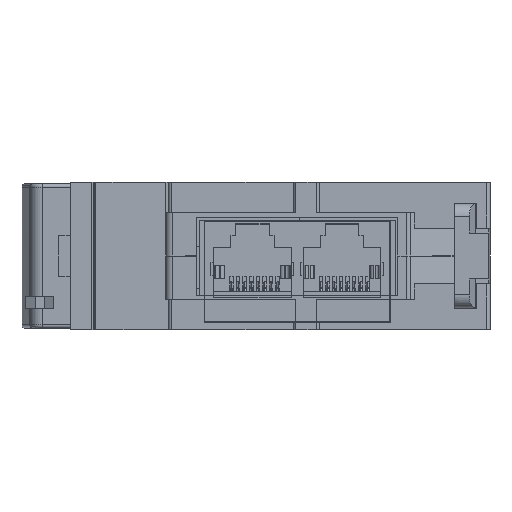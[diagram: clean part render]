
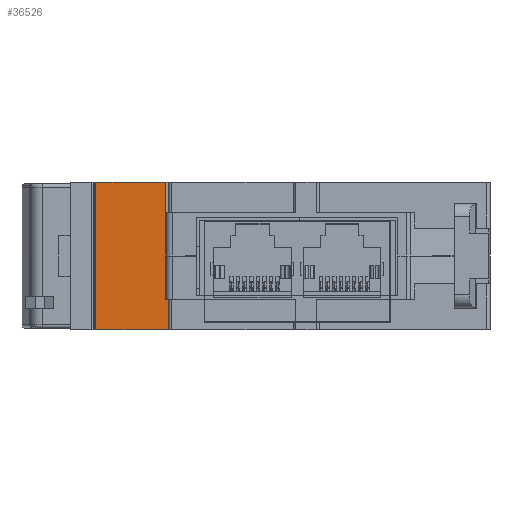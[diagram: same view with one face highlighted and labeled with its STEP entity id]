
A CAD part, left-side view. The second image highlights one B-rep face of the part: STEP entity #36526.
In plain terms, the highlighted planar face has unit normal (-1, 0, 0).
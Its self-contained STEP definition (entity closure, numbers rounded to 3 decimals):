
#1220 = VECTOR ( 'NONE', #46695, 1000. ) ;
#2016 = DIRECTION ( 'NONE',  ( 0., 0., -1. ) ) ;
#3674 = VECTOR ( 'NONE', #69982, 1000. ) ;
#4986 = CARTESIAN_POINT ( 'NONE',  ( -22.5, 0., 0. ) ) ;
#8594 = CARTESIAN_POINT ( 'NONE',  ( -22.5, 0., 11.25 ) ) ;
#9073 = DIRECTION ( 'NONE',  ( 0., 0., -1. ) ) ;
#9164 = LINE ( 'NONE', #35554, #52052 ) ;
#11385 = EDGE_CURVE ( 'NONE', #64143, #30922, #59351, .T. ) ;
#14905 = ORIENTED_EDGE ( 'NONE', *, *, #35883, .T. ) ;
#15177 = VECTOR ( 'NONE', #53445, 1000. ) ;
#15829 = ORIENTED_EDGE ( 'NONE', *, *, #34889, .F. ) ;
#17662 = EDGE_CURVE ( 'NONE', #30922, #60411, #9164, .T. ) ;
#18138 = ORIENTED_EDGE ( 'NONE', *, *, #57771, .F. ) ;
#18691 = FACE_OUTER_BOUND ( 'NONE', #21345, .T. ) ;
#19982 = CARTESIAN_POINT ( 'NONE',  ( -22.5, 10.705, 11.25 ) ) ;
#21345 = EDGE_LOOP ( 'NONE', ( #18138, #15829, #14905, #50598, #23908, #23565, #59998 ) ) ;
#22280 = LINE ( 'NONE', #27852, #41505 ) ;
#22527 = CARTESIAN_POINT ( 'NONE',  ( -22.5, 0., -6.65 ) ) ;
#23430 = CARTESIAN_POINT ( 'NONE',  ( -22.5, 0., -11.25 ) ) ;
#23565 = ORIENTED_EDGE ( 'NONE', *, *, #17662, .F. ) ;
#23908 = ORIENTED_EDGE ( 'NONE', *, *, #30233, .F. ) ;
#27852 = CARTESIAN_POINT ( 'NONE',  ( -22.5, -0.4, -6.65 ) ) ;
#29077 = LINE ( 'NONE', #8594, #3674 ) ;
#30233 = EDGE_CURVE ( 'NONE', #60411, #36722, #62755, .T. ) ;
#30922 = VERTEX_POINT ( 'NONE', #4986 ) ;
#31933 = DIRECTION ( 'NONE',  ( 0., 1., 0. ) ) ;
#34048 = EDGE_CURVE ( 'NONE', #36722, #52433, #22280, .T. ) ;
#34889 = EDGE_CURVE ( 'NONE', #60271, #69429, #54529, .T. ) ;
#35431 = DIRECTION ( 'NONE',  ( 0., -1., 0. ) ) ;
#35554 = CARTESIAN_POINT ( 'NONE',  ( -22.5, 0., 11.25 ) ) ;
#35883 = EDGE_CURVE ( 'NONE', #60271, #52433, #37196, .T. ) ;
#36526 = ADVANCED_FACE ( 'NONE', ( #18691 ), #70876, .F. ) ;
#36722 = VERTEX_POINT ( 'NONE', #50782 ) ;
#37196 = LINE ( 'NONE', #23430, #1220 ) ;
#40521 = CARTESIAN_POINT ( 'NONE',  ( -22.5, 0., 11.25 ) ) ;
#41505 = VECTOR ( 'NONE', #56013, 1000. ) ;
#43447 = CARTESIAN_POINT ( 'NONE',  ( -22.5, 0., 11.25 ) ) ;
#45139 = CARTESIAN_POINT ( 'NONE',  ( -22.5, -0.4, -11.25 ) ) ;
#46251 = VECTOR ( 'NONE', #9073, 1000. ) ;
#46695 = DIRECTION ( 'NONE',  ( 0., -1., 0. ) ) ;
#47578 = CARTESIAN_POINT ( 'NONE',  ( -22.5, 10.705, 11.25 ) ) ;
#49573 = DIRECTION ( 'NONE',  ( 1., 0., 0. ) ) ;
#50598 = ORIENTED_EDGE ( 'NONE', *, *, #34048, .F. ) ;
#50782 = CARTESIAN_POINT ( 'NONE',  ( -22.5, -0.4, -6.65 ) ) ;
#51456 = CARTESIAN_POINT ( 'NONE',  ( -22.5, 0., -6.65 ) ) ;
#52052 = VECTOR ( 'NONE', #2016, 1000. ) ;
#52433 = VERTEX_POINT ( 'NONE', #45139 ) ;
#53445 = DIRECTION ( 'NONE',  ( 0., 0., 1. ) ) ;
#54529 = LINE ( 'NONE', #47578, #15177 ) ;
#56013 = DIRECTION ( 'NONE',  ( 0., 0., -1. ) ) ;
#57407 = AXIS2_PLACEMENT_3D ( 'NONE', #43447, #49573, #31933 ) ;
#57771 = EDGE_CURVE ( 'NONE', #69429, #64143, #29077, .T. ) ;
#58404 = VECTOR ( 'NONE', #35431, 1000. ) ;
#59351 = LINE ( 'NONE', #64102, #46251 ) ;
#59998 = ORIENTED_EDGE ( 'NONE', *, *, #11385, .F. ) ;
#60271 = VERTEX_POINT ( 'NONE', #72556 ) ;
#60411 = VERTEX_POINT ( 'NONE', #51456 ) ;
#62755 = LINE ( 'NONE', #22527, #58404 ) ;
#64102 = CARTESIAN_POINT ( 'NONE',  ( -22.5, 0., 39. ) ) ;
#64143 = VERTEX_POINT ( 'NONE', #40521 ) ;
#69429 = VERTEX_POINT ( 'NONE', #19982 ) ;
#69982 = DIRECTION ( 'NONE',  ( 0., -1., 0. ) ) ;
#70876 = PLANE ( 'NONE',  #57407 ) ;
#72556 = CARTESIAN_POINT ( 'NONE',  ( -22.5, 10.705, -11.25 ) ) ;
